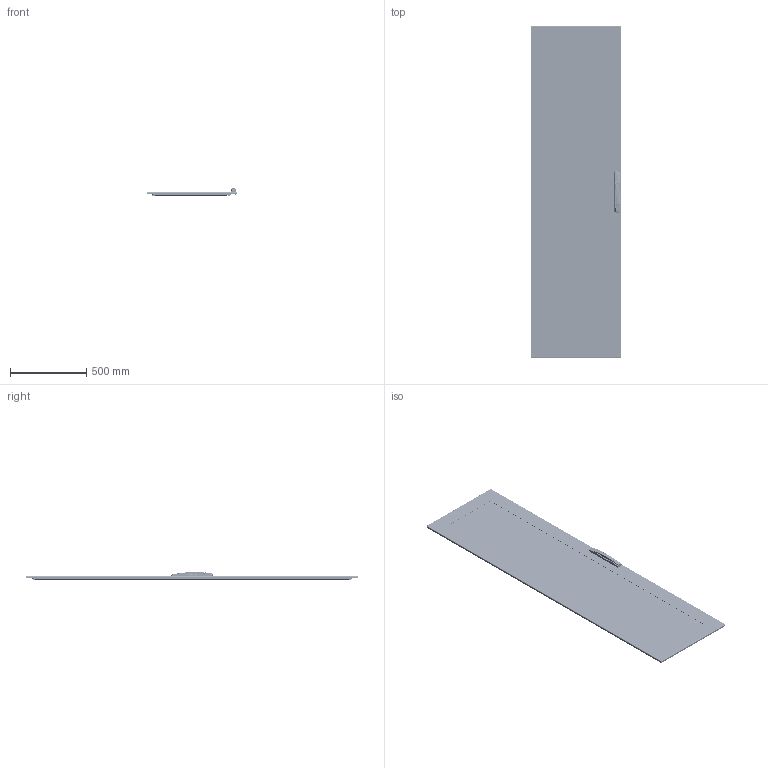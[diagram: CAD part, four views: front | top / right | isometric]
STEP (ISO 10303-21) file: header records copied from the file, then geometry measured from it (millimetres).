
FILE_DESCRIPTION (( 'STEP AP203' ), '1' );
FILE_NAME ('p2dwg226.STEP', '2016-09-16T21:43:17', ( '' ), ( '' ), 'SwSTEP 2.0', 'SolidWorks 2014', '' );
FILE_SCHEMA (( 'CONFIG_CONTROL_DESIGN' ));
Length unit declared in the file: millimetre
Products named in the file (54): 89128835_89124178; 51140001; 89128967; 87931527_87931527; 11158132_THIKNESS .155 FIXED; 60127207; 11358765; 11358764; 89128984_87412792; 87931368_SLEEVE; 11158133_11581133; 89128528; 89134078_60127430; 46120001_Compressed; 11258013; 89126528_87412775; 60100041_60100041; 89128428; 60127175_60127175; 89130164_BBD; 51223001; 11258012; 89128944; 89124458_After Weld; 51232001_51232001; 60127140_60127140; p2dwg226; 51138001_Compressed; 11358763; 89129029; 60127173_60127173; 60127172_60127172; 60127138_60127138; 60127093; 51231001; 89091664_875472289; 60127277_60127277; 87920638_87920638; 87576035_87576035; 51137001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
Assembly tree (121 placements, depth 5):
  p2dwg226
    89130164_BBD
      89128898_89124438
        89128921
        60100041_60100041  x2
          87931527_87931527
          87931368_SLEEVE
        89124458_After Weld  x3
        60127172_60127172  x3
        87920638_87920638  x16
        99401225  x24
      89128967
      89128984_87412792  x2
      89126528_87412775  x2
      89128944
      89129029
      89128835_89124178
        89091664_875472289  x4
        89124179_89124179  x2
        89126144_89124180  x2
      89128428
        89128528
        60127175_60127175  x2
        60127216_60127216  x3
          60127140_60127140
          60127138_60127138
          87576035_87576035
        60127139_60127139  x4
        11158132_THIKNESS .155 FIXED  x8
        11158133_11581133  x3
      60127277_60127277  x3
        51232001_51232001
        60127173_60127173
      89134078_60127430
        11458037
        11458036
        51140001
        11358764
        11258013
        11258012
        11358763
        51231001
        11258014
        46139001_46139001  x2
        51145001_Extended
        11358765
        46120001_Compressed
        51223001
        51138001_Compressed
        60127093
        51137001
        60127208
        60127212
        60127207
Bounding box: 598 x 2183 x 53.03 mm (x, y, z)
Volume: 7434935.6 mm3; surface area: 4565421.9 mm2
Topology: 120 solids, 120 shells, 7284 faces, 18134 edges, 11271 vertices
Faces by surface type: plane 2775, cylinder 2652, torus 1016, cone 524, bspline 292, sphere 25
Entity records: 129515 total; most frequent: CARTESIAN_POINT 33072, DIRECTION 18938, ORIENTED_EDGE 18422, EDGE_CURVE 9211, AXIS2_PLACEMENT_3D 7262, VERTEX_POINT 5800, LINE 4414, VECTOR 4414
